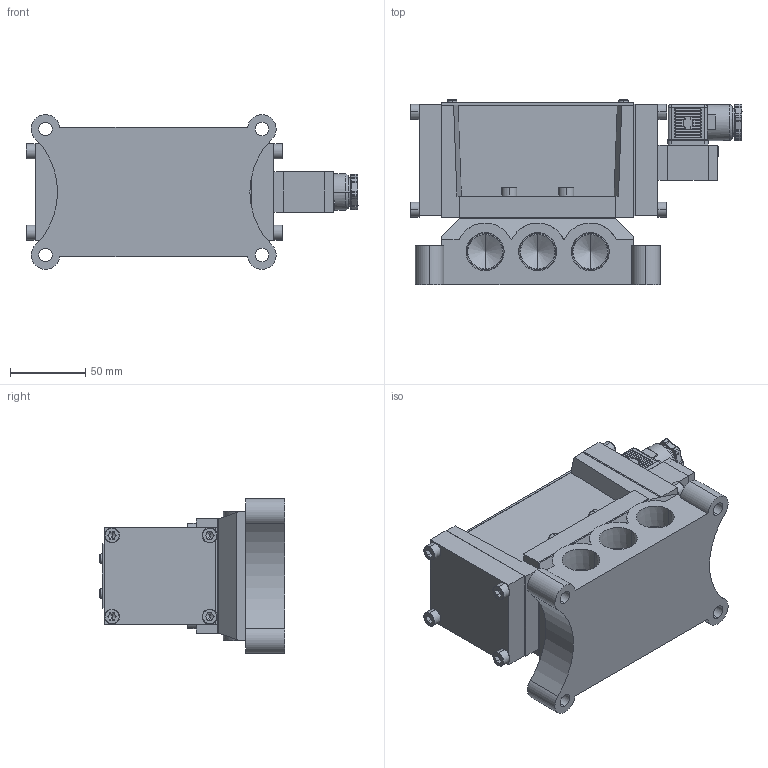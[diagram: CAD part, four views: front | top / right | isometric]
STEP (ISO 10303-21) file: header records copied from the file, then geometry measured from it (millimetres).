
FILE_DESCRIPTION (( 'STEP AP203' ), '1' );
FILE_NAME ('PMS2415#-06-#C#.STEP', '2016-03-09T08:54:02', ( 'Sam Lin' ), ( '' ), 'SwSTEP 2.0', 'SolidWorks 2013', '' );
FILE_SCHEMA (( 'CONFIG_CONTROL_DESIGN' ));
Length unit declared in the file: metre
Products named in the file (16): PM06-C1; PM06-C4; PMS2415-4; PM06-C6-M3; PMS2415-3; PM15-MARK-24; PM06-C5; PMS2415-5; PMS2306-6(C); PM06-C3-M4; PMS2415#-06-#C#; ISO 4762 M6 x 12; PMS2415-1; PMS2415-7; PMS2415-2; PMS2415-6-06
Assembly tree (30 placements, depth 2):
  PMS2415#-06-#C#
    PMS2415-1
    PMS2415-2
    PMS2415-3
    PMS2415-4  x2
    PM15-MARK-24
    PMS2415-5
    PM06-C3-M4  x3
    ISO 4762 M6 x 12  x12
    PMS2415-7
    PMS2415-6-06
    PM06-C1
    PM06-C4
    PM06-C6-M3  x2
    PM06-C5
    PMS2306-6(C)
Bounding box: 221 x 123.55 x 102.97 mm (x, y, z)
Volume: 1154179.8 mm3; surface area: 199964.6 mm2
Topology: 36 solids, 36 shells, 1112 faces, 2714 edges, 1578 vertices
Faces by surface type: plane 491, cylinder 280, bspline 230, cone 111
Entity records: 29314 total; most frequent: CARTESIAN_POINT 11832, ORIENTED_EDGE 3288, DIRECTION 3034, EDGE_CURVE 1644, AXIS2_PLACEMENT_3D 1104, VERTEX_POINT 1038, VECTOR 826, LINE 826
